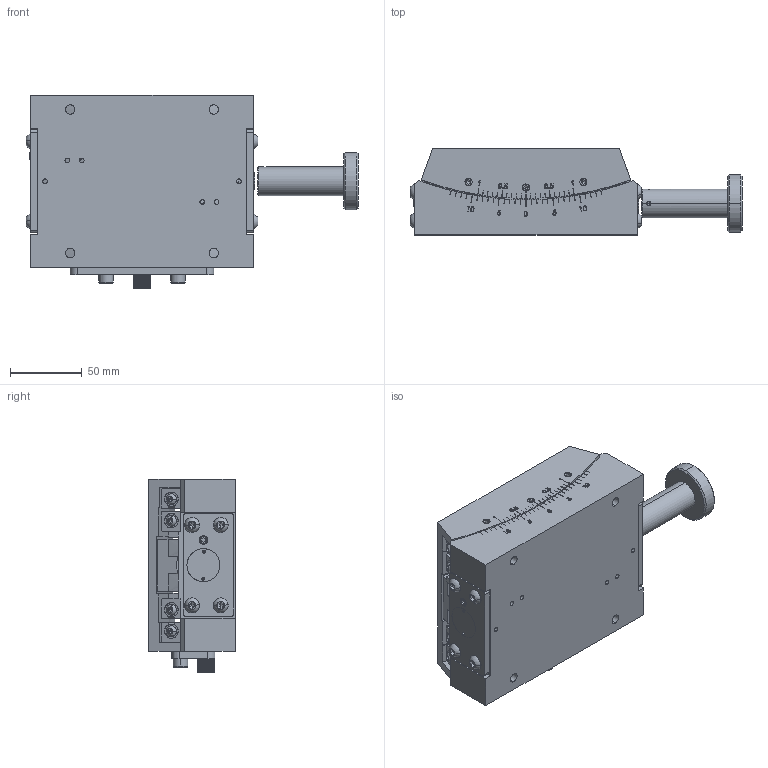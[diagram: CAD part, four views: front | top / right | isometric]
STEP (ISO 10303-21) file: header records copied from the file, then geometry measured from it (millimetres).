
FILE_DESCRIPTION (( 'STEP AP203' ), '1' );
FILE_NAME ('7SGM0310-0褒弇怢.STEP', '2019-03-12T01:42:19', ( '' ), ( '' ), 'SwSTEP 2.0', 'SolidWorks 2014', '' );
FILE_SCHEMA (( 'CONFIG_CONTROL_DESIGN' ));
Length unit declared in the file: millimetre
Products named in the file (1): 7SGM0310-0褒弇怢
Bounding box: 231.3 x 60 x 135 mm (x, y, z)
Surface area: 162411.5 mm2 (no closed solid volume)
Topology: 0 solids, 60 shells, 895 faces, 3062 edges, 2140 vertices
Faces by surface type: plane 500, cylinder 285, cone 37, sphere 32, bspline 29, torus 12
Entity records: 38859 total; most frequent: CARTESIAN_POINT 12510, DIRECTION 5519, ORIENTED_EDGE 4822, EDGE_CURVE 3050, VERTEX_POINT 2140, AXIS2_PLACEMENT_3D 1863, VECTOR 1793, LINE 1793
